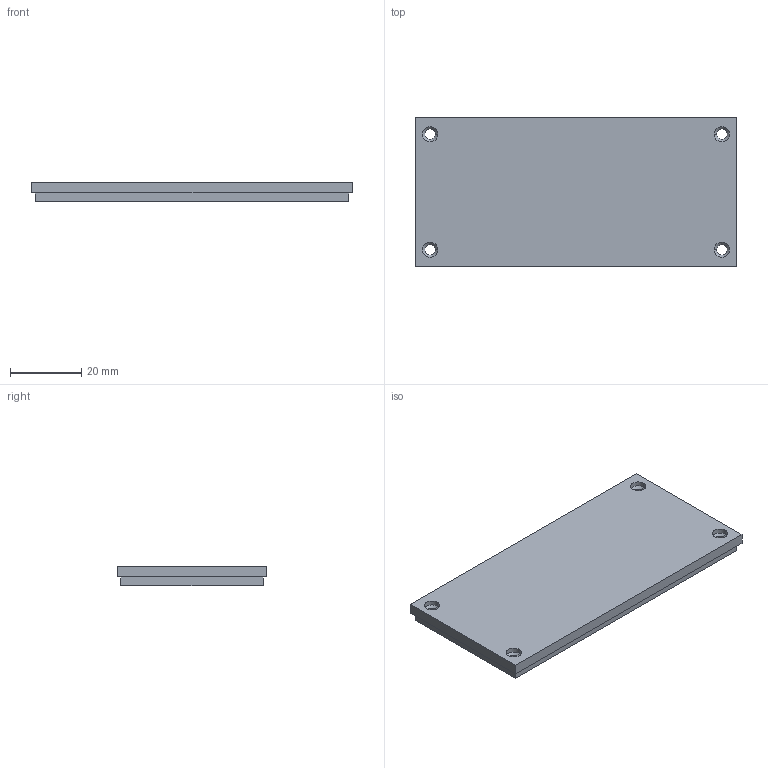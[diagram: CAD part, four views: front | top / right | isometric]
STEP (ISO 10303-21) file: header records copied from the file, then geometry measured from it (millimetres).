
FILE_DESCRIPTION (( 'STEP AP214' ), '1' );
FILE_NAME ('Tapa negre PP11.STEP', '2017-08-10T08:33:06', ( 'aaa' ), ( '' ), 'SwSTEP 2.0', 'SolidWorks 2013', '' );
FILE_SCHEMA (( 'AUTOMOTIVE_DESIGN' ));
Length unit declared in the file: millimetre
Products named in the file (1): Tapa negre PP11
Bounding box: 90 x 42 x 5.5 mm (x, y, z)
Volume: 12218.5 mm3; surface area: 9764.9 mm2
Topology: 1 solids, 1 shells, 58 faces, 150 edges, 92 vertices
Faces by surface type: cylinder 26, plane 24, cone 8
Entity records: 1804 total; most frequent: DIRECTION 320, CARTESIAN_POINT 301, ORIENTED_EDGE 300, EDGE_CURVE 150, AXIS2_PLACEMENT_3D 111, LINE 98, VECTOR 98, VERTEX_POINT 92
